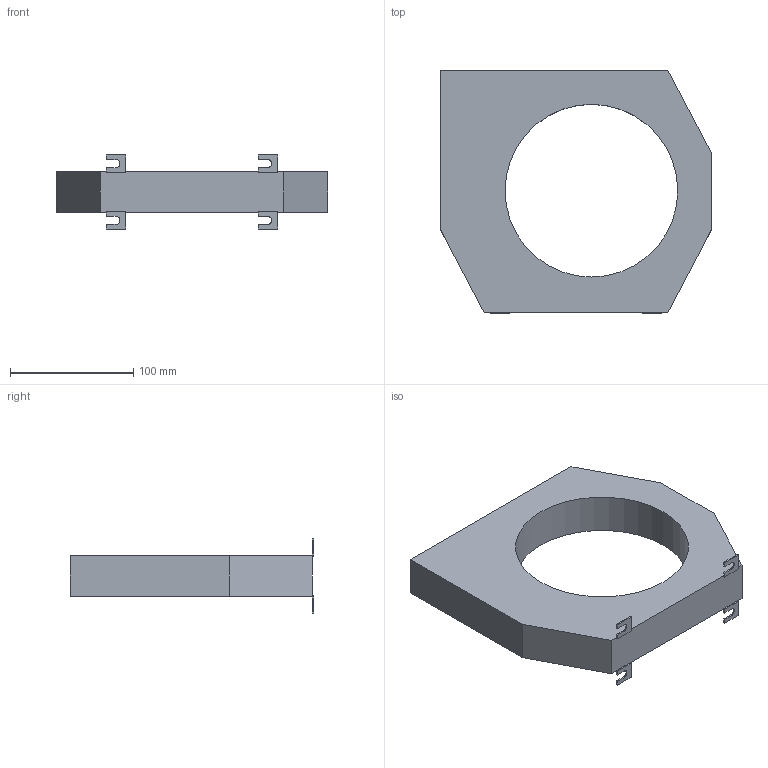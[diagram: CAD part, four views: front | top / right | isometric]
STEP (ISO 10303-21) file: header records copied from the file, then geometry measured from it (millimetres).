
FILE_DESCRIPTION (( 'STEP AP214' ), '1' );
FILE_NAME ('W4-S140.STEP', '2016-01-18T11:31:45', ( 'User' ), ( 'Bender' ), 'SwSTEP 2.0', 'SolidWorks 2015', '' );
FILE_SCHEMA (( 'AUTOMOTIVE_DESIGN' ));
Length unit declared in the file: millimetre
Products named in the file (1): W4-S140
Bounding box: 220 x 197 x 60 mm (x, y, z)
Volume: 796982.1 mm3; surface area: 89169.6 mm2
Topology: 5 solids, 5 shells, 50 faces, 120 edges, 80 vertices
Faces by surface type: plane 45, cylinder 5
Full cylindrical faces by diameter (mm): 140 x1
Entity records: 1613 total; most frequent: CARTESIAN_POINT 250, ORIENTED_EDGE 238, DIRECTION 231, EDGE_CURVE 119, LINE 109, VECTOR 109, VERTEX_POINT 80, AXIS2_PLACEMENT_3D 61
